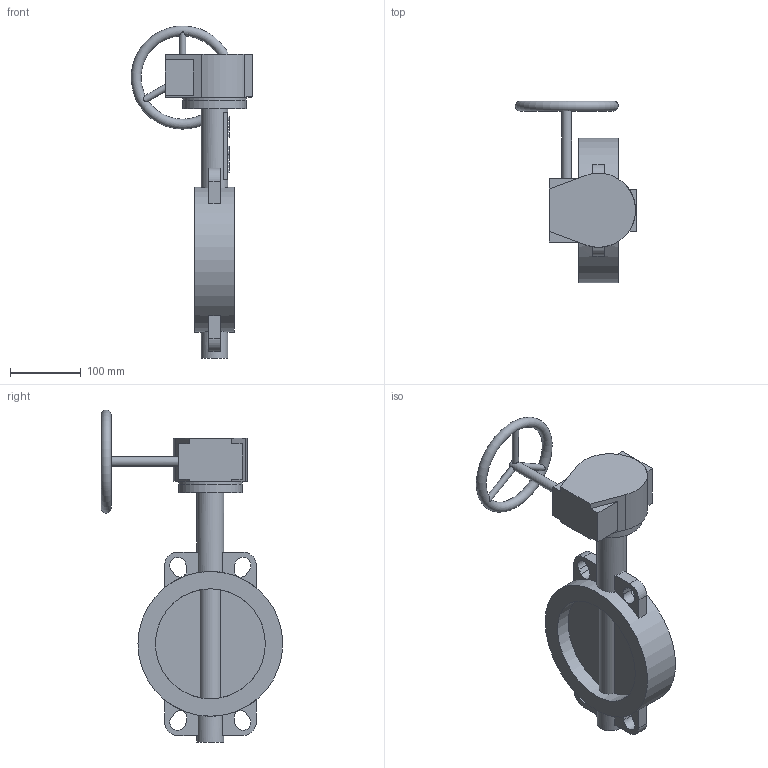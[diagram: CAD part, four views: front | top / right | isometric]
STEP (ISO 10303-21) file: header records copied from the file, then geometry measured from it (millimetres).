
FILE_DESCRIPTION(('STEP AP203'), '1');
FILE_NAME('Çàòâîð 017W.Z(÷óãóí) DN150 PN10_16 ðåäóêòîð', '', ('UNSPECIFIED'), ('UNSPECIFIED'), 'ASCON STEP Converter 1.6', 'ASCON Math Kernel', '');
FILE_SCHEMA(('CONFIG_CONTROL_DESIGN'));
Length unit declared in the file: millimetre
Bounding box: 171.78 x 257 x 469.97 mm (x, y, z)
Volume: 775614.2 mm3; surface area: 256235.2 mm2
Topology: 1 solids, 2 shells, 789 faces, 2329 edges, 1498 vertices
Faces by surface type: cylinder 584, plane 204, torus 1
Full cylindrical faces by diameter (mm): 6.7 x4, 9 x3, 10 x4, 14 x1, 18.9 x1, 38 x2, 55 x1, 90 x2, 155.7 x2, 205 x1
Entity records: 34882 total; most frequent: CARTESIAN_POINT 6390, DIRECTION 5106, ORIENTED_EDGE 4534, EDGE_CURVE 2306, AXIS2_PLACEMENT_3D 2030, VERTEX_POINT 1497, CIRCLE 1240, LINE 1046
